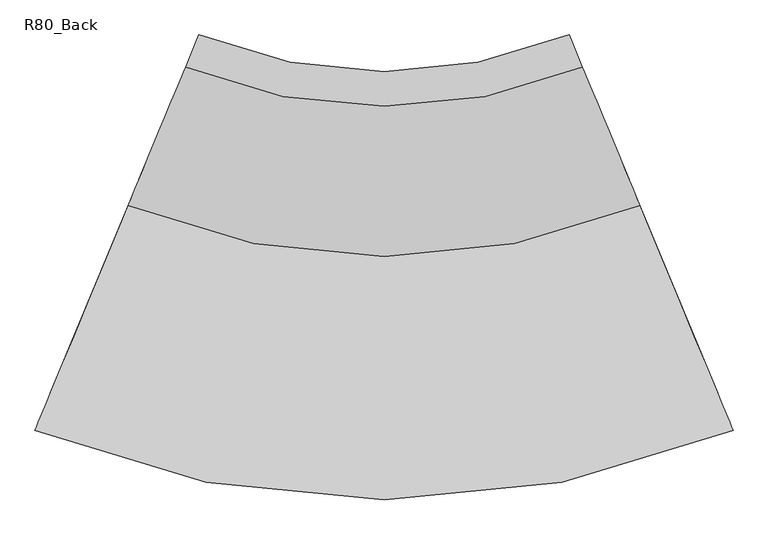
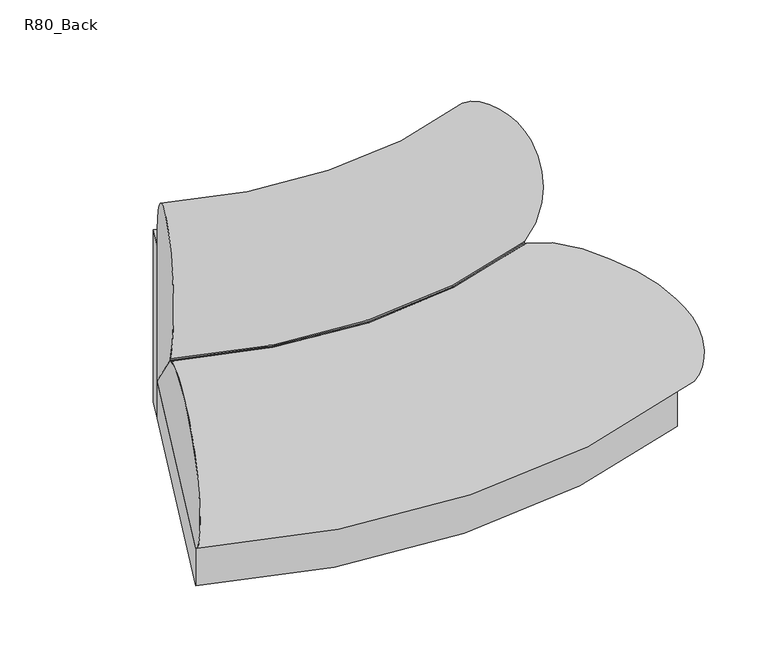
"""IFC4 building model written with IfcOpenShell, lengths in millimetres: furniture geometry, Memo_Candy_CurveOutside_R80 : R80_Back."""

import ifcopenshell
import ifcopenshell.guid

model = None  # the IFC model being written
_history = None  # IfcOwnerHistory: only IFC2X3 demands one
_inside = {}  # id of a spatial element -> (the spatial element, [elements in it])
_under = {}  # id of a project, library or spatial element -> (it, [spatial elements below it])
_declared = {}  # id of a project -> (the project, [libraries it declares])
_typed = {}  # id of a type object -> (the type object, [elements of that type])
_made_of = {}  # id of a material, layer set ... -> (it, [elements and type objects made of it])


def new_model(schema):
    """Start an empty IFC model of exactly this schema.

    Asked for "IFC4X3", IfcOpenShell would pick the latest addendum, in which some entities
    have other attributes; the version numbers below select the first issue.
    IFC2X3 requires an IfcOwnerHistory on every rooted entity: one is made here for all.
    """
    global model, _history
    if schema == "IFC4X3":
        model = ifcopenshell.file(schema_version=(4, 3, 0, 0))
    else:
        model = ifcopenshell.file(schema=schema)
    _inside.clear()
    _under.clear()
    _declared.clear()
    _typed.clear()
    _made_of.clear()
    _history = None
    if model.schema == "IFC2X3":
        org = make("IfcOrganization", Name="unknown")
        user = make(
            "IfcPersonAndOrganization",
            ThePerson=make("IfcPerson", FamilyName="unknown"),
            TheOrganization=org,
        )
        app = make(
            "IfcApplication",
            ApplicationDeveloper=org,
            Version="unknown",
            ApplicationFullName="unknown",
            ApplicationIdentifier="unknown",
        )
        _history = make(
            "IfcOwnerHistory",
            OwningUser=user,
            OwningApplication=app,
            ChangeAction="ADDED",
            CreationDate=0,
        )
    return model


def make(cls, **values):
    """One entity of the class cls with the attributes given. An attribute that is None is left unset."""
    return model.create_entity(
        cls, **{name: value for name, value in values.items() if value is not None}
    )


def rooted(cls, **values):
    """An entity with a GlobalId (a new one), such as an element, a storey or a relation."""
    return make(cls, GlobalId=ifcopenshell.guid.new(), OwnerHistory=_history, **values)


def si_unit(unit_type, name, prefix=None):
    """IfcSIUnit, for example si_unit("LENGTHUNIT", "METRE", prefix="MILLI")."""
    return make("IfcSIUnit", UnitType=unit_type, Prefix=prefix, Name=name)


def assignment(units):
    """IfcUnitAssignment: the units of a project."""
    return None if units is None else make("IfcUnitAssignment", Units=units)


def point(xyz):
    """IfcCartesianPoint."""
    return None if xyz is None else make("IfcCartesianPoint", Coordinates=xyz)


def direction(xyz):
    """IfcDirection."""
    return None if xyz is None else make("IfcDirection", DirectionRatios=xyz)


def frame(location, z_axis=None, x_axis=None):
    """IfcAxis2Placement3D, a coordinate frame: its origin and axes. An axis left out is left unset."""
    return make(
        "IfcAxis2Placement3D",
        Location=point(location),
        Axis=direction(z_axis),
        RefDirection=direction(x_axis),
    )


def frame_2d(location, x_axis=None):
    """IfcAxis2Placement2D, a coordinate frame in the plane: its origin and x axis."""
    return make(
        "IfcAxis2Placement2D", Location=point(location), RefDirection=direction(x_axis)
    )


def origin():
    """The frame at (0, 0, 0) with its axes left unset."""
    return frame((0.0, 0.0, 0.0))


def origin_with_axes():
    """The frame at (0, 0, 0) with the z axis (0, 0, 1) and the x axis (1, 0, 0) written out."""
    return frame((0.0, 0.0, 0.0), z_axis=(0.0, 0.0, 1.0), x_axis=(1.0, 0.0, 0.0))


def place(relative_to, where):
    """IfcLocalPlacement: puts the frame where relative to a parent placement (None: the world)."""
    return make(
        "IfcLocalPlacement", PlacementRelTo=relative_to, RelativePlacement=where
    )


def context(
    kind, dimensions, precision=None, world=None, true_north=None, identifier=None
):
    """IfcGeometricRepresentationContext, for example the 3D "Model" context."""
    return make(
        "IfcGeometricRepresentationContext",
        ContextIdentifier=identifier,
        ContextType=kind,
        CoordinateSpaceDimension=dimensions,
        Precision=precision,
        WorldCoordinateSystem=world,
        TrueNorth=true_north,
    )


def project(units=None, contexts=None):
    """IfcProject with its units and contexts."""
    return rooted(
        "IfcProject",
        Name="project",
        RepresentationContexts=contexts,
        UnitsInContext=assignment(units),
    )


def spatial(cls, under=None, at=None, **own):
    """A site, building, storey or space (cls), placed at a placement, below another one or the project."""
    s = rooted(cls, ObjectPlacement=at, **own)
    if under is not None:
        _under.setdefault(under.id(), (under, []))[1].append(s)
    return s


def polyline(points):
    """IfcPolyline through the points."""
    return make("IfcPolyline", Points=[point(p) for p in points])


def circle_curve(where, radius):
    """IfcCircle in the frame where."""
    return make("IfcCircle", Position=where, Radius=radius)


def ellipse_curve(where, semi_axis1, semi_axis2):
    """IfcEllipse in the frame where."""
    return make(
        "IfcEllipse", Position=where, SemiAxis1=semi_axis1, SemiAxis2=semi_axis2
    )


def trimmed(basis, trim1, trim2, sense, master):
    """IfcTrimmedCurve: the piece of a basis curve between two trims."""
    return make(
        "IfcTrimmedCurve",
        BasisCurve=basis,
        Trim1=trim1,
        Trim2=trim2,
        SenseAgreement=sense,
        MasterRepresentation=master,
    )


def segment(curve, same_sense, transition):
    """IfcCompositeCurveSegment."""
    return make(
        "IfcCompositeCurveSegment",
        Transition=transition,
        SameSense=same_sense,
        ParentCurve=curve,
    )


def composite_curve(segments, self_intersect=None):
    """IfcCompositeCurve: segments joined end to end."""
    return make("IfcCompositeCurve", Segments=segments, SelfIntersect=self_intersect)


def outline(outer, holes=None, kind="AREA"):
    """IfcArbitraryClosedProfileDef: a profile drawn as a closed curve; with holes, ...WithVoids."""
    if holes is None:
        return make("IfcArbitraryClosedProfileDef", ProfileType=kind, OuterCurve=outer)
    return make(
        "IfcArbitraryProfileDefWithVoids",
        ProfileType=kind,
        OuterCurve=outer,
        InnerCurves=holes,
    )


def extrude(swept, where, along, depth):
    """IfcExtrudedAreaSolid: the profile swept, set in the frame where, extruded along a direction by depth."""
    return make(
        "IfcExtrudedAreaSolid",
        SweptArea=swept,
        Position=where,
        ExtrudedDirection=direction(along),
        Depth=depth,
    )


def shape(context_of_items, identifier, shape_type, items):
    """IfcShapeRepresentation: the items that make up one representation, for example the "Body"."""
    return make(
        "IfcShapeRepresentation",
        ContextOfItems=context_of_items,
        RepresentationIdentifier=identifier,
        RepresentationType=shape_type,
        Items=items,
    )


def source(mapping_origin, context_of_items, identifier, shape_type, items):
    """IfcRepresentationMap: a shape defined once, which mapped items show again and again."""
    return make(
        "IfcRepresentationMap",
        MappingOrigin=mapping_origin,
        MappedRepresentation=shape(context_of_items, identifier, shape_type, items),
    )


def transform(
    local_origin,
    x_axis=None,
    y_axis=None,
    z_axis=None,
    scale=None,
    scale2=None,
    scale3=None,
    uniform=True,
):
    """IfcCartesianTransformationOperator3D, or its non-uniform kind. x_axis, y_axis, z_axis: its Axis1, 2, 3."""
    if uniform:
        return make(
            "IfcCartesianTransformationOperator3D",
            Axis1=direction(x_axis),
            Axis2=direction(y_axis),
            LocalOrigin=point(local_origin),
            Scale=scale,
            Axis3=direction(z_axis),
        )
    return make(
        "IfcCartesianTransformationOperator3DnonUniform",
        Axis1=direction(x_axis),
        Axis2=direction(y_axis),
        LocalOrigin=point(local_origin),
        Scale=scale,
        Axis3=direction(z_axis),
        Scale2=scale2,
        Scale3=scale3,
    )


def mapped(mapping_source, mapping_target):
    """IfcMappedItem: shows the shape of a source again, moved by a transform."""
    return make(
        "IfcMappedItem", MappingSource=mapping_source, MappingTarget=mapping_target
    )


def made_of(thing, what):
    """Note that an element or type object is made of a material, layer set ...; save() writes the relation."""
    if what is not None:
        _made_of.setdefault(what.id(), (what, []))[1].append(thing)
    return thing


def element(
    cls,
    number,
    at=None,
    inside=None,
    cuts=None,
    type_object=None,
    material=None,
    context=None,
    identifier="Body",
    shape_type=None,
    held_by="IfcProductDefinitionShape",
    body=None,
    shapes=None,
    **own,
):
    """One element of the class cls, such as IfcWall. Its Tag is "e" and its number.

    at: its placement. inside: the storey or other place that contains it. cuts: it is an
    opening in that element (IfcRelVoidsElement). A single representation is given by context,
    identifier, shape_type and body (its items); several are given by shapes. held_by: the class
    of the entity that holds the representations. save() writes the other relations.
    """
    e = rooted(cls, Tag="e%d" % number, ObjectPlacement=at, **own)
    if body is not None:
        shapes = [shape(context, identifier, shape_type, body)]
    if shapes is not None:
        e.Representation = make(held_by, Representations=shapes)
    if inside is not None:
        _inside.setdefault(inside.id(), (inside, []))[1].append(e)
    if cuts is not None:
        rooted(
            "IfcRelVoidsElement", RelatingBuildingElement=cuts, RelatedOpeningElement=e
        )
    if type_object is not None:
        _typed.setdefault(type_object.id(), (type_object, []))[1].append(e)
    return made_of(e, material)


def aggregate(whole, parts):
    """IfcRelAggregates: a whole, such as a stair, and the parts it consists of."""
    return rooted("IfcRelAggregates", RelatingObject=whole, RelatedObjects=parts)


def save(model, path):
    """Write the relations noted so far, then the file.

    IfcRelAggregates (storeys below a building ...), IfcRelContainedInSpatialStructure (elements
    in a storey), IfcRelDefinesByType, IfcRelAssociatesMaterial and IfcRelDeclares: one each for
    every whole, place, type object, material and project.
    """
    for whole, parts in _under.values():
        aggregate(whole, parts)
    for where, things in _inside.values():
        rooted(
            "IfcRelContainedInSpatialStructure",
            RelatedElements=things,
            RelatingStructure=where,
        )
    for kind, things in _typed.values():
        rooted("IfcRelDefinesByType", RelatedObjects=things, RelatingType=kind)
    for what, things in _made_of.values():
        rooted("IfcRelAssociatesMaterial", RelatedObjects=things, RelatingMaterial=what)
    for by, libraries in _declared.values():
        rooted("IfcRelDeclares", RelatingContext=by, RelatedDefinitions=libraries)
    model.write(path)


def plane_surface(at):
    """IfcPlane: the flat surface through the origin of the frame at, square to its z axis."""
    return make("IfcPlane", Position=at)


def revolved_surface(curve, axis_point, axis_direction):
    """IfcSurfaceOfRevolution: the curve turned about the line through axis_point along axis_direction."""
    return make(
        "IfcSurfaceOfRevolution",
        SweptCurve=make("IfcArbitraryOpenProfileDef", ProfileType="CURVE", Curve=curve),
        AxisPosition=make("IfcAxis1Placement", Location=point(axis_point), Axis=direction(axis_direction)),
    )


def spline_curve(degree, points, multiplicities, knots, weights=None):
    """IfcBSplineCurveWithKnots; with weights, IfcRationalBSplineCurveWithKnots."""
    own = dict(
        Degree=degree,
        ControlPointsList=[point(p) for p in points],
        CurveForm="UNSPECIFIED",
        ClosedCurve=False,
        SelfIntersect=False,
        KnotMultiplicities=multiplicities,
        Knots=knots,
        KnotSpec="UNSPECIFIED",
    )
    if weights is None:
        return make("IfcBSplineCurveWithKnots", **own)
    return make("IfcRationalBSplineCurveWithKnots", WeightsData=weights, **own)


def advanced_brep(points, edges, surfaces, faces):
    """IfcAdvancedBrep: a solid bounded by faces that lie on surfaces and meet in shared edges.

    An edge is (start, end): straight between two places in points (the first is 0);
    or (start, end, curve); or (start, end, curve, False) where it runs against its curve.
    A face is (place in surfaces, loops), or (place, loops, False) where it looks against
    its surface's normal. A loop lists edges by number (the first is 1), with a minus sign
    where the edge is run from its end to its start. The first loop is the outer one.
    """
    corners = [point(p) for p in points]
    vertices = [make("IfcVertexPoint", VertexGeometry=c) for c in corners]
    made = []
    for start, end, *more in edges:
        made.append(
            make(
                "IfcEdgeCurve",
                EdgeStart=vertices[start],
                EdgeEnd=vertices[end],
                EdgeGeometry=more[0] if more else make("IfcPolyline", Points=[corners[start], corners[end]]),
                SameSense=more[1] if len(more) > 1 else True,
            )
        )
    hull = []
    for where, loops, *sense in faces:
        bounds = []
        for j, loop in enumerate(loops):
            ring = [make("IfcOrientedEdge", EdgeElement=made[abs(k) - 1], Orientation=k > 0) for k in loop]
            bounds.append(
                make(
                    "IfcFaceOuterBound" if j == 0 else "IfcFaceBound",
                    Bound=make("IfcEdgeLoop", EdgeList=ring),
                    Orientation=True,
                )
            )
        hull.append(make("IfcAdvancedFace", Bounds=bounds, FaceSurface=surfaces[where], SameSense=sense[0] if sense else True))
    return make("IfcAdvancedBrep", Outer=make("IfcClosedShell", CfsFaces=hull))


def r80_back_22fe0665(model_context):
    return source(origin(), model_context, "Body", "SolidModel", [
        advanced_brep(
        [(-434.9771234, 486.5723294, 130.8862), (-537.4516317, 239.1769817, 382.770933), (-537.3036784, 239.5341724, 386.6180112), (-434.9771234, 486.5723294, 562.6862), (434.9771234, 486.5723294, 130.8862), (434.9771234, 486.5723294, 562.6862), (537.3036784, 239.5341724, 386.6180112), (537.4516317, 239.1769817, 382.770933)],
        [
            (0, 1),
            (1, 2, circle_curve(frame((-538.3366439, 237.0403731, 384.9463138), z_axis=(0.9238795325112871, -0.38268343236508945, 0.0), x_axis=(0.38268343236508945, 0.9238795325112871, 0.0)), 3.175)),
            (2, 3, spline_curve(3, [(-537.3036784, 239.5341724, 386.6180112), (-549.805793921, 209.351395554, 439.369212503), (-556.829722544, 192.394132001, 487.129586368), (-563.47953347, 176.340068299, 603.825037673), (-559.599305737, 185.707766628, 674.263665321), (-531.671678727, 253.131022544, 768.908542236), (-506.132644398, 314.787705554, 789.248467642), (-457.799694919, 431.473767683, 756.110862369), (-434.9771234, 486.5723294, 709.516352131), (-434.9771234, 486.5723294, 562.6862)], [4, 2, 2, 2, 4], [0.0, 0.4185569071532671, 0.9855194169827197, 1.5950308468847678, 2.146168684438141])),
            (3, 0),
            (4, 5),
            (5, 6, spline_curve(3, [(434.9771234, 486.5723294, 562.6862), (434.9771234, 486.5723294, 709.516352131), (457.799694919, 431.473767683, 756.110862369), (506.132644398, 314.787705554, 789.248467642), (531.671678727, 253.131022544, 768.908542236), (559.599305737, 185.707766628, 674.263665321), (563.47953347, 176.340068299, 603.825037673), (556.829722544, 192.394132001, 487.129586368), (549.805793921, 209.351395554, 439.369212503), (537.3036784, 239.5341724, 386.6180112)], [4, 2, 2, 2, 4], [0.0, 0.5511378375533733, 1.1606492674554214, 1.727611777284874, 2.146168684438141])),
            (6, 7, circle_curve(frame((538.3366439, 237.0403731, 384.9463138), z_axis=(-0.9238795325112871, -0.38268343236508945, 0.0), x_axis=(-0.38268343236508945, 0.9238795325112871, 0.0)), 3.175)),
            (7, 4),
            (7, 1, circle_curve(frame((0.0, 1536.7, 382.770933), z_axis=(0.0, 0.0, -1.0), x_axis=(-0.38268343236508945, -0.9238795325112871, 0.0)), 1404.4287947)),
            (0, 4, circle_curve(frame((0.0, 1536.7, 130.8862), z_axis=(0.0, 0.0, 1.0), x_axis=(-0.38268343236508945, -0.9238795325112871, 0.0)), 1136.65)),
            (6, 2, circle_curve(frame((0.0, 1536.7, 386.6180112), z_axis=(0.0, 0.0, -1.0), x_axis=(-0.38268343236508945, -0.9238795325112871, 0.0)), 1404.0421742)),
            (5, 3, circle_curve(frame((0.0, 1536.7, 562.6862), z_axis=(0.0, 0.0, -1.0), x_axis=(-0.38268343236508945, -0.9238795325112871, 0.0)), 1136.65)),
        ],
        [
            plane_surface(frame((0.0, 1536.7, -101.6), z_axis=(-0.923879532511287, 0.3826834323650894, 0.0), x_axis=(-0.3826834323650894, -0.923879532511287, 0.0))),
            plane_surface(frame((0.0, 1536.7, -101.6), z_axis=(0.923879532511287, 0.3826834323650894, 0.0), x_axis=(0.3826834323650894, -0.923879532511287, 0.0))),
            revolved_surface(polyline([(-537.4516317, 239.1769817, 382.770933), (-434.9771234, 486.5723294, 130.8862)]), (0.0, 1536.7, -101.6), (0.0, 0.0, -1.0)),
            revolved_surface(trimmed(ellipse_curve(frame((-538.3366439, 237.0403731, 384.9463138), z_axis=(-0.9238795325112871, 0.38268343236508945, 0.0), x_axis=(0.38268343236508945, 0.9238795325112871, 0.0)), 3.175, 3.175), [point((-537.3036784, 239.5341724, 386.6180112))], [point((-537.4516317, 239.1769817, 382.770933))], True, "CARTESIAN"), (0.0, 1536.7, -101.6), (0.0, 0.0, -1.0)),
            revolved_surface(spline_curve(3, [(-434.9771234, 486.5723294, 562.6862), (-434.9771234, 486.5723294, 709.516352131), (-457.799694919, 431.473767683, 756.110862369), (-506.132644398, 314.787705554, 789.248467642), (-531.671678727, 253.131022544, 768.908542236), (-559.599305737, 185.707766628, 674.263665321), (-563.47953347, 176.340068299, 603.825037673), (-556.829722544, 192.394132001, 487.129586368), (-549.805793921, 209.351395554, 439.369212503), (-537.3036784, 239.5341724, 386.6180112)], [4, 2, 2, 2, 4], [0.0, 0.5511378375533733, 1.1606492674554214, 1.727611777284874, 2.146168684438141]), (0.0, 1536.7, -101.6), (0.0, 0.0, -1.0)),
            revolved_surface(polyline([(-434.97712339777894, 486.5723293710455, 130.8862), (-434.97712339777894, 486.5723293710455, 562.6862)]), (0.0, 1536.7, -101.6), (0.0, 0.0, -1.0)),
        ],
        [
            (0, [[1, 2, 3, 4]]),
            (1, [[5, 6, 7, 8]]),
            (2, [[9, -1, 10, -8]]),
            (3, [[11, -2, -9, -7]]),
            (4, [[12, -3, -11, -6]]),
            (5, [[-10, -4, -12, -5]]),
        ],
    ),
        advanced_brep(
        [(-434.9771234, 486.5723294, 130.8862), (-731.4419785, -229.1571445, 130.8862), (-539.5174609, 234.1896289, 383.1727272), (-539.0027981, 235.4321347, 382.2910487), (-537.4516317, 239.1769817, 382.770933), (434.9771234, 486.5723294, 130.8862), (537.4516317, 239.1769817, 382.770933), (539.0027981, 235.4321347, 382.2910487), (539.5174609, 234.1896289, 383.1727272), (731.4419785, -229.1571445, 130.8862)],
        [
            (0, 1),
            (1, 2, spline_curve(3, [(-731.4419785, -229.1571445, 130.8862), (-758.733439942, -295.04456085, 170.417318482), (-766.435485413, -313.638943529, 240.606468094), (-764.09456983, -307.987473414, 357.685536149), (-748.843453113, -271.168020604, 393.569418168), (-708.973224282, -174.912773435, 443.81214514), (-683.336448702, -113.020122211, 454.422655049), (-612.818599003, 57.225026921, 449.084914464), (-570.244753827, 160.007381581, 435.812236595), (-539.5174609, 234.1896289, 383.1727272)], [4, 2, 2, 2, 4], [0.0, 0.4418974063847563, 1.0001856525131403, 1.637190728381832, 2.2072085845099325])),
            (2, 3),
            (3, 4, circle_curve(frame((-538.3366439, 237.0403731, 384.9463138), z_axis=(0.9238795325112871, -0.38268343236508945, 0.0), x_axis=(0.38268343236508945, 0.9238795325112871, 0.0)), 3.175)),
            (4, 0),
            (5, 6),
            (6, 7, circle_curve(frame((538.3366439, 237.0403731, 384.9463138), z_axis=(-0.9238795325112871, -0.38268343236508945, 0.0), x_axis=(-0.38268343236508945, 0.9238795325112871, 0.0)), 3.175)),
            (7, 8),
            (8, 9, spline_curve(3, [(539.5174609, 234.1896289, 383.1727272), (570.244753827, 160.007381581, 435.812236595), (612.818599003, 57.225026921, 449.084914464), (683.336448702, -113.020122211, 454.422655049), (708.973224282, -174.912773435, 443.81214514), (748.843453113, -271.168020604, 393.569418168), (764.09456983, -307.987473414, 357.685536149), (766.435485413, -313.638943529, 240.606468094), (758.733439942, -295.04456085, 170.417318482), (731.4419785, -229.1571445, 130.8862)], [4, 2, 2, 2, 4], [0.0, 0.5700178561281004, 1.2070229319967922, 1.7653111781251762, 2.2072085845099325])),
            (9, 5),
            (9, 1, circle_curve(frame((0.0, 1536.7, 130.8862), z_axis=(0.0, 0.0, -1.0), x_axis=(-0.38268343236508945, -0.9238795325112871, 0.0)), 1911.35)),
            (0, 5, circle_curve(frame((0.0, 1536.7, 130.8862), z_axis=(0.0, 0.0, 1.0), x_axis=(-0.38268343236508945, -0.9238795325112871, 0.0)), 1136.65)),
            (8, 2, circle_curve(frame((0.0, 1536.7, 383.1727272), z_axis=(0.0, 0.0, -1.0), x_axis=(-0.38268343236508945, -0.9238795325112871, 0.0)), 1409.8270665)),
            (7, 3, circle_curve(frame((0.0, 1536.7, 382.2910487), z_axis=(0.0, 0.0, -1.0), x_axis=(-0.38268343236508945, -0.9238795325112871, 0.0)), 1408.4821879)),
            (6, 4, circle_curve(frame((0.0, 1536.7, 382.770933), z_axis=(0.0, 0.0, -1.0), x_axis=(-0.38268343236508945, -0.9238795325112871, 0.0)), 1404.4287947)),
        ],
        [
            plane_surface(frame((0.0, 1536.7, -173.9138), z_axis=(-0.923879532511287, 0.3826834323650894, 0.0), x_axis=(-0.3826834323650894, -0.923879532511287, 0.0))),
            plane_surface(frame((0.0, 1536.7, -173.9138), z_axis=(0.923879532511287, 0.3826834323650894, 0.0), x_axis=(0.3826834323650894, -0.923879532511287, 0.0))),
            plane_surface(frame((0.0, 1536.7, 130.8862), z_axis=(0.0, 0.0, -1.0), x_axis=(-0.3826834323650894, -0.923879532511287, 0.0))),
            revolved_surface(spline_curve(3, [(-539.5174609, 234.1896289, 383.1727272), (-570.244753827, 160.007381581, 435.812236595), (-612.818599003, 57.225026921, 449.084914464), (-683.336448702, -113.020122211, 454.422655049), (-708.973224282, -174.912773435, 443.81214514), (-748.843453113, -271.168020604, 393.569418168), (-764.09456983, -307.987473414, 357.685536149), (-766.435485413, -313.638943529, 240.606468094), (-758.733439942, -295.04456085, 170.417318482), (-731.4419785, -229.1571445, 130.8862)], [4, 2, 2, 2, 4], [0.0, 0.5700178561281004, 1.2070229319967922, 1.7653111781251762, 2.2072085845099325]), (0.0, 1536.7, -173.9138), (0.0, 0.0, -1.0)),
            revolved_surface(polyline([(-539.0027981, 235.4321347, 382.2910487), (-539.5174609, 234.1896289, 383.1727272)]), (0.0, 1536.7, -173.9138), (0.0, 0.0, -1.0)),
            revolved_surface(trimmed(ellipse_curve(frame((-538.3366439, 237.0403731, 384.9463138), z_axis=(-0.9238795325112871, 0.38268343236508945, 0.0), x_axis=(0.38268343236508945, 0.9238795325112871, 0.0)), 3.175, 3.175), [point((-537.4516317, 239.1769817, 382.770933))], [point((-539.0027981, 235.4321347, 382.2910487))], True, "CARTESIAN"), (0.0, 1536.7, -173.9138), (0.0, 0.0, -1.0)),
            revolved_surface(polyline([(-434.9771234, 486.5723294, 130.8862), (-537.4516317, 239.1769817, 382.770933)]), (0.0, 1536.7, -173.9138), (0.0, 0.0, -1.0)),
        ],
        [
            (0, [[1, 2, 3, 4, 5]]),
            (1, [[6, 7, 8, 9, 10]]),
            (2, [[11, -1, 12, -10]]),
            (3, [[13, -2, -11, -9]]),
            (4, [[14, -3, -13, -8]]),
            (5, [[15, -4, -14, -7]]),
            (6, [[-12, -5, -15, -6]]),
        ],
    ),
        extrude(outline(composite_curve([segment(trimmed(circle_curve(frame_2d((0.0, -323.85)), 14.2875), [point((14.2875, -323.85))], [point((-14.2875, -323.85))], False, "CARTESIAN"), True, "CONTINUOUS"), segment(trimmed(circle_curve(frame_2d((0.0, -323.85)), 14.2875), [point((-14.2875, -323.85))], [point((14.2875, -323.85))], False, "CARTESIAN"), True, "CONTINUOUS")], self_intersect=False)), origin_with_axes(), (0.0, 0.0, 1.0), 10.2362),
        extrude(outline(composite_curve([segment(trimmed(circle_curve(frame_2d((401.0911293, 419.040209)), 14.2875), [point((415.3786293, 419.040209))], [point((386.8036293, 419.040209))], False, "CARTESIAN"), True, "CONTINUOUS"), segment(trimmed(circle_curve(frame_2d((401.0911293, 419.040209)), 14.2875), [point((386.8036293, 419.040209))], [point((415.3786293, 419.040209))], False, "CARTESIAN"), True, "CONTINUOUS")], self_intersect=False)), origin_with_axes(), (0.0, 0.0, 1.0), 10.2362),
        extrude(outline(composite_curve([segment(trimmed(circle_curve(frame_2d((658.8659727, -203.2833139)), 14.2875), [point((668.9687608, -193.1805257))], [point((648.7631845, -213.386102))], False, "CARTESIAN"), True, "CONTINUOUS"), segment(trimmed(circle_curve(frame_2d((658.8659727, -203.2833139)), 14.2875), [point((648.7631845, -213.386102))], [point((668.9687608, -193.1805257))], False, "CARTESIAN"), True, "CONTINUOUS")], self_intersect=False)), origin_with_axes(), (0.0, 0.0, 1.0), 10.2362),
        extrude(outline(composite_curve([segment(trimmed(circle_curve(frame_2d((-401.0911293, 419.040209)), 14.2875), [point((-415.3786293, 419.040209))], [point((-386.8036293, 419.040209))], False, "CARTESIAN"), True, "CONTINUOUS"), segment(trimmed(circle_curve(frame_2d((-401.0911293, 419.040209)), 14.2875), [point((-386.8036293, 419.040209))], [point((-415.3786293, 419.040209))], False, "CARTESIAN"), True, "CONTINUOUS")], self_intersect=False)), origin_with_axes(), (0.0, 0.0, 1.0), 10.2362),
        extrude(outline(composite_curve([segment(trimmed(circle_curve(frame_2d((-658.8659727, -203.2833139)), 14.2875), [point((-668.9687608, -193.1805257))], [point((-648.7631845, -213.386102))], False, "CARTESIAN"), True, "CONTINUOUS"), segment(trimmed(circle_curve(frame_2d((-658.8659727, -203.2833139)), 14.2875), [point((-648.7631845, -213.386102))], [point((-668.9687608, -193.1805257))], False, "CARTESIAN"), True, "CONTINUOUS")], self_intersect=False)), origin_with_axes(), (0.0, 0.0, 1.0), 10.2362),
        extrude(outline(composite_curve([segment(trimmed(circle_curve(frame_2d((0.0, 1536.7)), 1911.35), [point((731.4419785, -229.1571445))], [point((-731.4419785, -229.1571445))], False, "CARTESIAN"), True, "CONTINUOUS"), segment(polyline([(-731.4419785, -229.1571445), (-434.9771234, 486.5723294)]), True, "CONTINUOUS"), segment(trimmed(circle_curve(frame_2d((0.0, 1536.7)), 1136.65), [point((-434.9771234, 486.5723294))], [point((434.9771234, 486.5723294))], True, "CARTESIAN"), True, "CONTINUOUS"), segment(polyline([(434.9771234, 486.5723294), (731.4419785, -229.1571445)]), True, "CONTINUOUS")], self_intersect=False)), frame((0.0, 0.0, 10.2362), z_axis=(0.0, 0.0, 1.0), x_axis=(1.0, 0.0, 0.0)), (0.0, 0.0, 1.0), 120.65),
        extrude(outline(composite_curve([segment(polyline([(-434.9771234, 486.5723294), (-405.8166459, 556.9719497)]), True, "CONTINUOUS"), segment(trimmed(circle_curve(frame_2d((0.0, 1536.7)), 1060.45), [point((-405.8166459, 556.9719497))], [point((405.8166459, 556.9719497))], True, "CARTESIAN"), True, "CONTINUOUS"), segment(polyline([(405.8166459, 556.9719497), (434.9771234, 486.5723294)]), True, "CONTINUOUS"), segment(trimmed(circle_curve(frame_2d((0.0, 1536.7)), 1136.65), [point((434.9771234, 486.5723294))], [point((-434.9771234, 486.5723294))], False, "CARTESIAN"), True, "CONTINUOUS")], self_intersect=False)), frame((0.0, 0.0, 10.2362), z_axis=(0.0, 0.0, 1.0), x_axis=(1.0, 0.0, 0.0)), (0.0, 0.0, 1.0), 552.45),
    ])


if __name__ == "__main__":
    model = new_model("IFC4")
    model_context = context("Model", 3, world=origin())
    ifc_project = project(units=[si_unit("LENGTHUNIT", "METRE", prefix="MILLI")], contexts=[model_context])
    site = spatial("IfcSite", under=ifc_project)
    building = spatial("IfcBuilding", under=site)
    placement = place(None, origin())
    r80_back_shape = r80_back_22fe0665(model_context)
    element("IfcFurniture", 1, ObjectType="Memo_Candy_CurveOutside_R80 : R80_Back", at=placement, inside=building, context=model_context, shape_type="MappedRepresentation", body=[
        mapped(r80_back_shape, transform((0.0, 0.0, 0.0), x_axis=(1.0, 0.0, 0.0), y_axis=(0.0, 1.0, 0.0), z_axis=(0.0, 0.0, 1.0))),
    ])
    save(model, "model.ifc")
